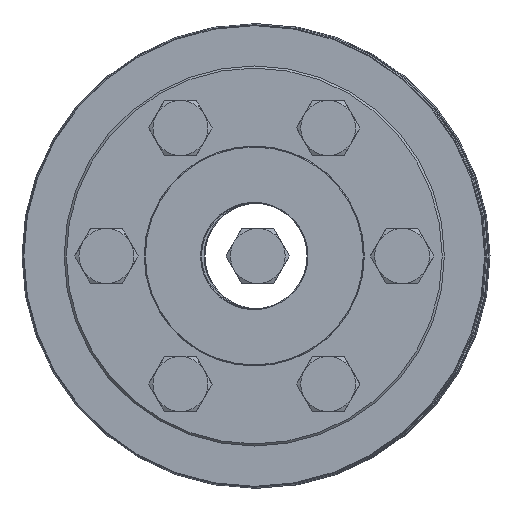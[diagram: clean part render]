
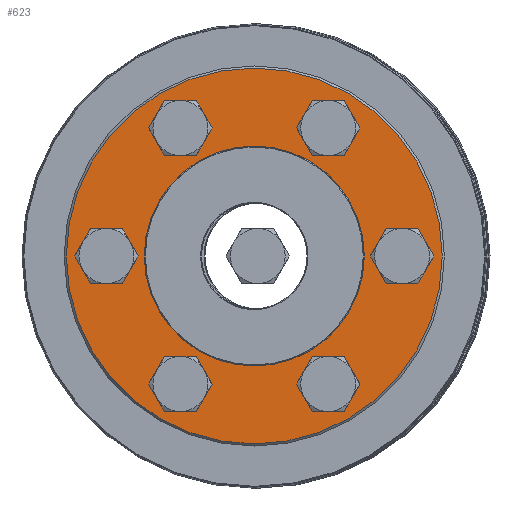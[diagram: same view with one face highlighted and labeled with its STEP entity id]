
A CAD part, left-side view. The second image highlights one B-rep face of the part: STEP entity #623.
In plain terms, the highlighted planar face has unit normal (-1, 0, 0).
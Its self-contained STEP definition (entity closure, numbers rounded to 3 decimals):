
#623 = ADVANCED_FACE( 'NONE', ( #919, #920, #921, #922, #923, #924, #925, #926 ), #927, .F. );
#919 = FACE_OUTER_BOUND( '', #1142, .T. );
#920 = FACE_BOUND( '', #1143, .T. );
#921 = FACE_BOUND( '', #1144, .T. );
#922 = FACE_BOUND( '', #1145, .T. );
#923 = FACE_BOUND( '', #1146, .T. );
#924 = FACE_BOUND( '', #1147, .T. );
#925 = FACE_BOUND( '', #1148, .T. );
#926 = FACE_BOUND( '', #1149, .T. );
#927 = PLANE( '', #1150 );
#1142 = EDGE_LOOP( '', ( #1487 ) );
#1143 = EDGE_LOOP( '', ( #1488 ) );
#1144 = EDGE_LOOP( '', ( #1489 ) );
#1145 = EDGE_LOOP( '', ( #1490 ) );
#1146 = EDGE_LOOP( '', ( #1491 ) );
#1147 = EDGE_LOOP( '', ( #1492 ) );
#1148 = EDGE_LOOP( '', ( #1493 ) );
#1149 = EDGE_LOOP( '', ( #1494 ) );
#1150 = AXIS2_PLACEMENT_3D( '', #1495, #1496, #1497 );
#1487 = ORIENTED_EDGE( '', *, *, #1791, .T. );
#1488 = ORIENTED_EDGE( '', *, *, #1792, .T. );
#1489 = ORIENTED_EDGE( '', *, *, #1793, .T. );
#1490 = ORIENTED_EDGE( '', *, *, #1794, .T. );
#1491 = ORIENTED_EDGE( '', *, *, #1795, .T. );
#1492 = ORIENTED_EDGE( '', *, *, #1782, .T. );
#1493 = ORIENTED_EDGE( '', *, *, #1784, .T. );
#1494 = ORIENTED_EDGE( '', *, *, #1796, .F. );
#1495 = CARTESIAN_POINT( '', ( 0., 26., 0. ) );
#1496 = DIRECTION( '', ( 1., 0., 0. ) );
#1497 = DIRECTION( '', ( 0., 1., 0. ) );
#1782 = EDGE_CURVE( 'NONE', #1987, #1987, #1988, .T. );
#1784 = EDGE_CURVE( 'NONE', #1991, #1991, #1992, .T. );
#1791 = EDGE_CURVE( 'NONE', #2005, #2005, #2006, .T. );
#1792 = EDGE_CURVE( 'NONE', #2007, #2007, #2008, .T. );
#1793 = EDGE_CURVE( 'NONE', #2009, #2009, #2010, .T. );
#1794 = EDGE_CURVE( 'NONE', #2011, #2011, #2012, .T. );
#1795 = EDGE_CURVE( 'NONE', #2013, #2013, #2014, .T. );
#1796 = EDGE_CURVE( 'NONE', #2015, #2015, #2016, .T. );
#1987 = VERTEX_POINT( '', #2173 );
#1988 = CIRCLE( '', #2174, 4.5 );
#1991 = VERTEX_POINT( '', #2177 );
#1992 = CIRCLE( '', #2178, 4.5 );
#2005 = VERTEX_POINT( '', #2191 );
#2006 = CIRCLE( '', #2192, 44.5 );
#2007 = VERTEX_POINT( '', #2193 );
#2008 = CIRCLE( '', #2194, 4.5 );
#2009 = VERTEX_POINT( '', #2195 );
#2010 = CIRCLE( '', #2196, 4.5 );
#2011 = VERTEX_POINT( '', #2197 );
#2012 = CIRCLE( '', #2198, 4.5 );
#2013 = VERTEX_POINT( '', #2199 );
#2014 = CIRCLE( '', #2200, 4.5 );
#2015 = VERTEX_POINT( '', #2201 );
#2016 = CIRCLE( '', #2202, 26. );
#2173 = CARTESIAN_POINT( '', ( 0., 17.5, -34.811 ) );
#2174 = AXIS2_PLACEMENT_3D( '', #2297, #2298, #2299 );
#2177 = CARTESIAN_POINT( '', ( 0., 35., -4.5 ) );
#2178 = AXIS2_PLACEMENT_3D( '', #2303, #2304, #2305 );
#2191 = CARTESIAN_POINT( '', ( 0., 0., -44.5 ) );
#2192 = AXIS2_PLACEMENT_3D( '', #2324, #2325, #2326 );
#2193 = CARTESIAN_POINT( '', ( 0., 17.5, 25.811 ) );
#2194 = AXIS2_PLACEMENT_3D( '', #2327, #2328, #2329 );
#2195 = CARTESIAN_POINT( '', ( 0., -17.5, 25.811 ) );
#2196 = AXIS2_PLACEMENT_3D( '', #2330, #2331, #2332 );
#2197 = CARTESIAN_POINT( '', ( 0., -35., -4.5 ) );
#2198 = AXIS2_PLACEMENT_3D( '', #2333, #2334, #2335 );
#2199 = CARTESIAN_POINT( '', ( 0., -17.5, -34.811 ) );
#2200 = AXIS2_PLACEMENT_3D( '', #2336, #2337, #2338 );
#2201 = CARTESIAN_POINT( '', ( 0., 0., 26. ) );
#2202 = AXIS2_PLACEMENT_3D( '', #2339, #2340, #2341 );
#2297 = CARTESIAN_POINT( '', ( 0., 17.5, -30.311 ) );
#2298 = DIRECTION( '', ( 1., 0., 0. ) );
#2299 = DIRECTION( '', ( 0., 0., -1. ) );
#2303 = CARTESIAN_POINT( '', ( 0., 35., 0. ) );
#2304 = DIRECTION( '', ( 1., 0., 0. ) );
#2305 = DIRECTION( '', ( 0., 0., -1. ) );
#2324 = CARTESIAN_POINT( '', ( 0., 0., 0. ) );
#2325 = DIRECTION( '', ( -1., 0., 0. ) );
#2326 = DIRECTION( '', ( 0., 0., -1. ) );
#2327 = CARTESIAN_POINT( '', ( 0., 17.5, 30.311 ) );
#2328 = DIRECTION( '', ( 1., 0., 0. ) );
#2329 = DIRECTION( '', ( 0., 0., -1. ) );
#2330 = CARTESIAN_POINT( '', ( 0., -17.5, 30.311 ) );
#2331 = DIRECTION( '', ( 1., 0., 0. ) );
#2332 = DIRECTION( '', ( 0., 0., -1. ) );
#2333 = CARTESIAN_POINT( '', ( 0., -35., 0. ) );
#2334 = DIRECTION( '', ( 1., 0., 0. ) );
#2335 = DIRECTION( '', ( 0., 0., -1. ) );
#2336 = CARTESIAN_POINT( '', ( 0., -17.5, -30.311 ) );
#2337 = DIRECTION( '', ( 1., 0., 0. ) );
#2338 = DIRECTION( '', ( 0., 0., -1. ) );
#2339 = CARTESIAN_POINT( '', ( 0., 0., 0. ) );
#2340 = DIRECTION( '', ( -1., 0., 0. ) );
#2341 = DIRECTION( '', ( 0., 0., 1. ) );
